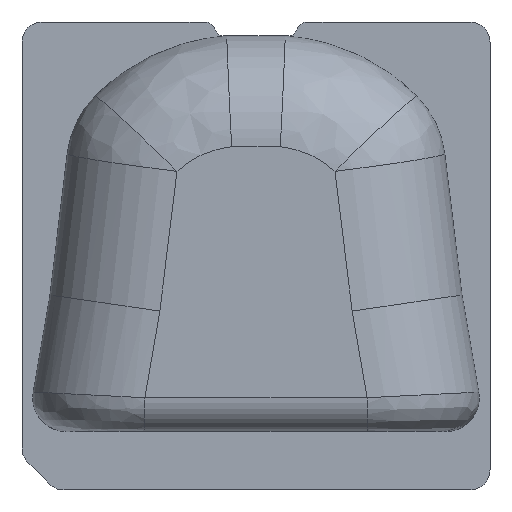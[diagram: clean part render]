
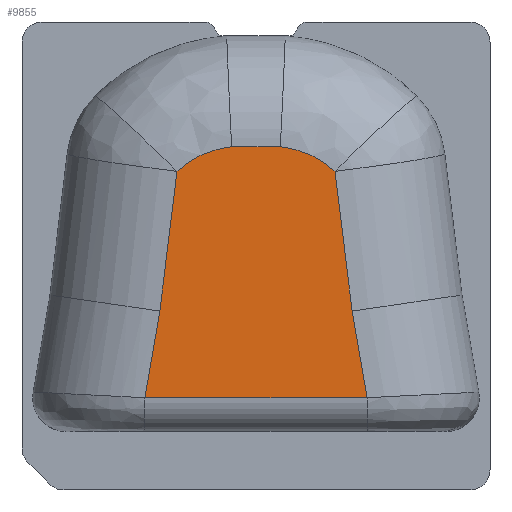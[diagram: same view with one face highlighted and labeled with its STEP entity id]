
A CAD part, top view. The second image highlights one B-rep face of the part: STEP entity #9855.
In plain terms, the highlighted planar face has unit normal (0, 0, 1).
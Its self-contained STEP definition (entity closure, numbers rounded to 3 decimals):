
#9148=CARTESIAN_POINT('Vertex',(-0.722,3.237,4.61)) ;
#9180=CARTESIAN_POINT('Vertex',(-2.347,2.508,4.61)) ;
#9184=CARTESIAN_POINT('Control Point',(-2.347,2.508,4.61)) ;
#9185=CARTESIAN_POINT('Control Point',(-2.345,2.511,4.61)) ;
#9186=CARTESIAN_POINT('Control Point',(-2.342,2.513,4.61)) ;
#9187=CARTESIAN_POINT('Control Point',(-2.34,2.515,4.61)) ;
#9188=CARTESIAN_POINT('Control Point',(-2.287,2.564,4.61)) ;
#9189=CARTESIAN_POINT('Control Point',(-2.233,2.61,4.61)) ;
#9190=CARTESIAN_POINT('Control Point',(-2.18,2.653,4.61)) ;
#9191=CARTESIAN_POINT('Control Point',(-1.999,2.79,4.61)) ;
#9192=CARTESIAN_POINT('Control Point',(-1.804,2.908,4.61)) ;
#9193=CARTESIAN_POINT('Control Point',(-1.66,2.981,4.61)) ;
#9194=CARTESIAN_POINT('Control Point',(-1.394,3.094,4.61)) ;
#9195=CARTESIAN_POINT('Control Point',(-1.111,3.173,4.61)) ;
#9196=CARTESIAN_POINT('Control Point',(-0.984,3.202,4.61)) ;
#9197=CARTESIAN_POINT('Control Point',(-0.854,3.223,4.61)) ;
#9198=CARTESIAN_POINT('Control Point',(-0.722,3.237,4.61)) ;
#9778=CARTESIAN_POINT('Axis2P3D Location',(0.,0.,4.61)) ;
#9783=CARTESIAN_POINT('Line Origine',(3.078,-2.931,4.61)) ;
#9787=CARTESIAN_POINT('Vertex',(3.3,-4.216,4.61)) ;
#9789=CARTESIAN_POINT('Vertex',(2.856,-1.645,4.61)) ;
#9792=CARTESIAN_POINT('Line Origine',(2.601,0.432,4.61)) ;
#9796=CARTESIAN_POINT('Vertex',(2.346,2.508,4.61)) ;
#9800=CARTESIAN_POINT('Control Point',(2.346,2.508,4.61)) ;
#9801=CARTESIAN_POINT('Control Point',(2.345,2.51,4.61)) ;
#9802=CARTESIAN_POINT('Control Point',(2.343,2.511,4.61)) ;
#9803=CARTESIAN_POINT('Control Point',(2.342,2.512,4.61)) ;
#9804=CARTESIAN_POINT('Control Point',(2.315,2.537,4.61)) ;
#9805=CARTESIAN_POINT('Control Point',(2.288,2.561,4.61)) ;
#9806=CARTESIAN_POINT('Control Point',(2.262,2.584,4.61)) ;
#9807=CARTESIAN_POINT('Control Point',(2.21,2.628,4.61)) ;
#9808=CARTESIAN_POINT('Control Point',(2.155,2.67,4.61)) ;
#9809=CARTESIAN_POINT('Control Point',(2.128,2.691,4.61)) ;
#9810=CARTESIAN_POINT('Control Point',(1.882,2.872,4.61)) ;
#9811=CARTESIAN_POINT('Control Point',(1.61,3.019,4.61)) ;
#9812=CARTESIAN_POINT('Control Point',(1.349,3.121,4.61)) ;
#9813=CARTESIAN_POINT('Control Point',(1.061,3.195,4.61)) ;
#9814=CARTESIAN_POINT('Control Point',(0.761,3.233,4.61)) ;
#9815=CARTESIAN_POINT('Control Point',(0.748,3.234,4.61)) ;
#9816=CARTESIAN_POINT('Control Point',(0.734,3.236,4.61)) ;
#9817=CARTESIAN_POINT('Control Point',(0.721,3.237,4.61)) ;
#9818=CARTESIAN_POINT('Vertex',(0.721,3.237,4.61)) ;
#9821=CARTESIAN_POINT('Line Origine',(-0.001,3.237,4.61)) ;
#9826=CARTESIAN_POINT('Line Origine',(-2.602,0.432,4.61)) ;
#9830=CARTESIAN_POINT('Vertex',(-2.856,-1.645,4.61)) ;
#9833=CARTESIAN_POINT('Line Origine',(-3.078,-2.93,4.61)) ;
#9837=CARTESIAN_POINT('Vertex',(-3.3,-4.216,4.61)) ;
#9840=CARTESIAN_POINT('Line Origine',(0.,-4.216,4.61)) ;
#9779=DIRECTION('Axis2P3D Direction',(0.,0.,1.)) ;
#9780=DIRECTION('Axis2P3D XDirection',(1.,0.,0.)) ;
#9784=DIRECTION('Vector Direction',(0.17,-0.985,0.)) ;
#9793=DIRECTION('Vector Direction',(-0.122,0.993,0.)) ;
#9822=DIRECTION('Vector Direction',(1.,0.,0.)) ;
#9827=DIRECTION('Vector Direction',(-0.122,-0.993,0.)) ;
#9834=DIRECTION('Vector Direction',(-0.17,-0.985,0.)) ;
#9841=DIRECTION('Vector Direction',(1.,0.,0.)) ;
#9781=AXIS2_PLACEMENT_3D('Plane Axis2P3D',#9778,#9779,#9780) ;
#9846=ORIENTED_EDGE('',*,*,#9791,.T.) ;
#9847=ORIENTED_EDGE('',*,*,#9798,.T.) ;
#9848=ORIENTED_EDGE('',*,*,#9820,.T.) ;
#9849=ORIENTED_EDGE('',*,*,#9825,.T.) ;
#9850=ORIENTED_EDGE('',*,*,#9199,.T.) ;
#9851=ORIENTED_EDGE('',*,*,#9832,.T.) ;
#9852=ORIENTED_EDGE('',*,*,#9839,.T.) ;
#9853=ORIENTED_EDGE('',*,*,#9844,.F.) ;
#9785=VECTOR('Line Direction',#9784,1.) ;
#9794=VECTOR('Line Direction',#9793,1.) ;
#9823=VECTOR('Line Direction',#9822,1.) ;
#9828=VECTOR('Line Direction',#9827,1.) ;
#9835=VECTOR('Line Direction',#9834,1.) ;
#9842=VECTOR('Line Direction',#9841,1.) ;
#9855=ADVANCED_FACE('mechanical_model',(#9854),#9782,.T.) ;
#9183=B_SPLINE_CURVE_WITH_KNOTS('',5,(#9184,#9185,#9186,#9187,#9188,#9189,#9190,#9191,#9192,#9193,#9194,#9195,#9196,#9197,#9198),.UNSPECIFIED.,.F.,.U.,(6,3,3,3,6),(4.532,4.607,6.098,9.549,12.253),.UNSPECIFIED.) ;
#9799=B_SPLINE_CURVE_WITH_KNOTS('',5,(#9800,#9801,#9802,#9803,#9804,#9805,#9806,#9807,#9808,#9809,#9810,#9811,#9812,#9813,#9814,#9815,#9816,#9817),.UNSPECIFIED.,.F.,.U.,(6,3,3,3,3,6),(4.11,4.154,4.906,5.658,11.558,11.834),.UNSPECIFIED.) ;
#9199=EDGE_CURVE('',#9149,#9181,#9183,.F.) ;
#9791=EDGE_CURVE('',#9788,#9790,#9786,.F.) ;
#9798=EDGE_CURVE('',#9790,#9797,#9795,.T.) ;
#9820=EDGE_CURVE('',#9797,#9819,#9799,.T.) ;
#9825=EDGE_CURVE('',#9819,#9149,#9824,.F.) ;
#9832=EDGE_CURVE('',#9181,#9831,#9829,.T.) ;
#9839=EDGE_CURVE('',#9831,#9838,#9836,.T.) ;
#9844=EDGE_CURVE('',#9788,#9838,#9843,.F.) ;
#9845=EDGE_LOOP('',(#9846,#9847,#9848,#9849,#9850,#9851,#9852,#9853)) ;
#9854=FACE_OUTER_BOUND('',#9845,.T.) ;
#9786=LINE('Line',#9783,#9785) ;
#9795=LINE('Line',#9792,#9794) ;
#9824=LINE('Line',#9821,#9823) ;
#9829=LINE('Line',#9826,#9828) ;
#9836=LINE('Line',#9833,#9835) ;
#9843=LINE('Line',#9840,#9842) ;
#9782=PLANE('',#9781) ;
#9149=VERTEX_POINT('',#9148) ;
#9181=VERTEX_POINT('',#9180) ;
#9788=VERTEX_POINT('',#9787) ;
#9790=VERTEX_POINT('',#9789) ;
#9797=VERTEX_POINT('',#9796) ;
#9819=VERTEX_POINT('',#9818) ;
#9831=VERTEX_POINT('',#9830) ;
#9838=VERTEX_POINT('',#9837) ;
